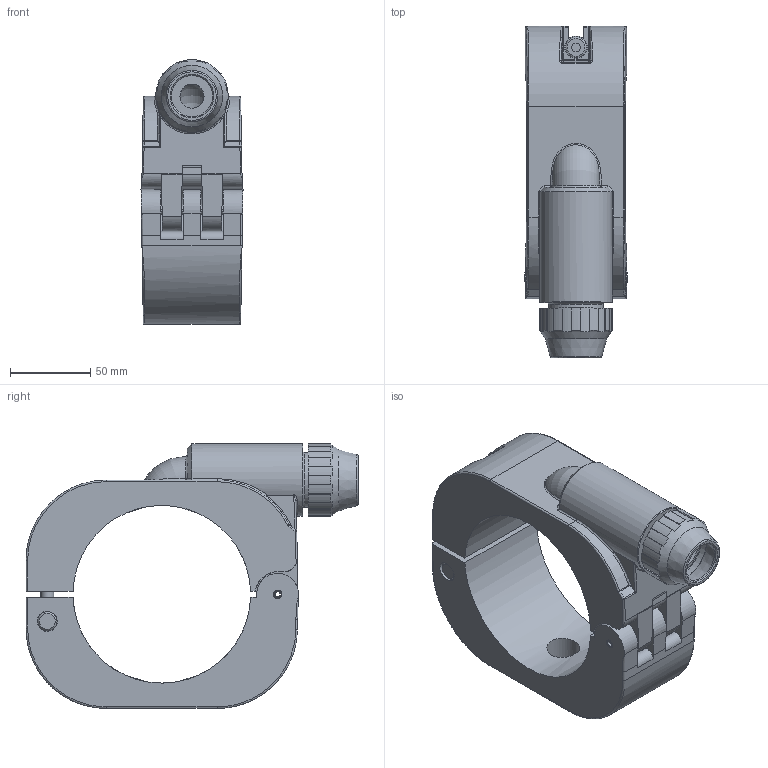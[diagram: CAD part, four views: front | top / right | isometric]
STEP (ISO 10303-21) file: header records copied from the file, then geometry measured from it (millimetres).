
FILE_DESCRIPTION( ( 'STEP AP214' ), '1' );
FILE_NAME( ' ', ' ', ( ' ' ), ( ' ' ), 'PSStep 11.0', 'VISI 17.0', ' ' );
FILE_SCHEMA( ( 'AUTOMOTIVE_DESIGN { 1 0 10303 214 1 1 1 1 }' ) );
Length unit declared in the file: millimetre
Products named in the file (9): 1; 2; 3; 4; 5; 6; 7; 8; 9
Bounding box: 63.45 x 206.48 x 164.73 mm (x, y, z)
Volume: 802865.5 mm3; surface area: 129596.8 mm2
Topology: 9 solids, 9 shells, 287 faces, 751 edges, 487 vertices
Faces by surface type: cylinder 114, plane 109, bspline 34, cone 11, torus 9, sphere 6, extrusion 4
Full cylindrical faces by diameter (mm): 5.3 x1, 5.8 x4, 8 x2, 9 x1, 12 x1, 12.5 x1, 13 x1, 14 x1, 15 x1, 20 x1, 20.5 x1, 25.7 x2, 30 x1, 34 x1, 35.984 x2, 37 x1, 39 x1, 40 x2, 45 x1
Entity records: 17814 total; most frequent: CARTESIAN_POINT 8728, DIRECTION 1359, ORIENTED_EDGE 1358, EDGE_CURVE 679, AXIS2_PLACEMENT_3D 521, VERTEX_POINT 461, EDGE_LOOP 366, FACE_OUTER_BOUND 321
